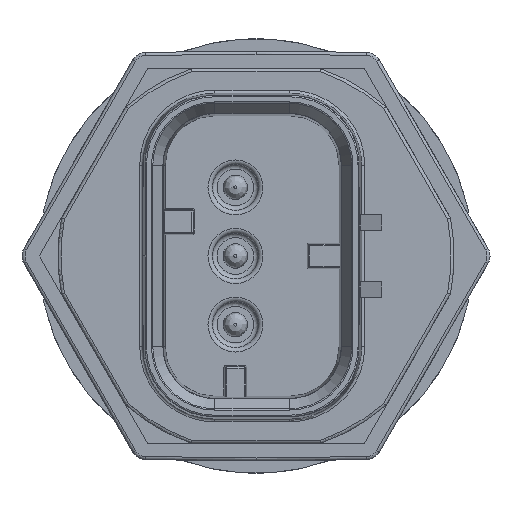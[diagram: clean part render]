
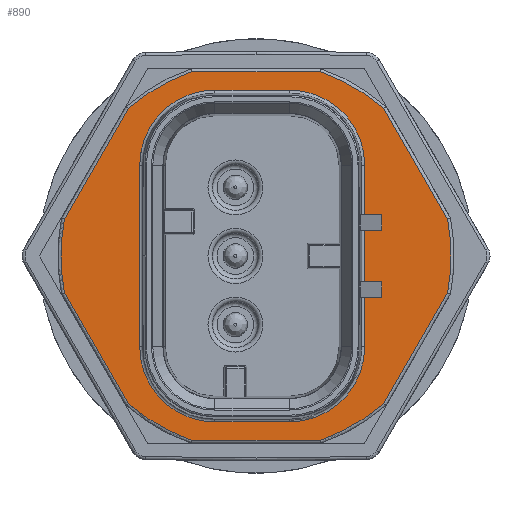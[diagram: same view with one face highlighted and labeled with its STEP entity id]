
A CAD part, left-side view. The second image highlights one B-rep face of the part: STEP entity #890.
In plain terms, the highlighted planar face has unit normal (-1, 0, 0).
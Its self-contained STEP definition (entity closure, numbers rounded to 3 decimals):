
#890 = ADVANCED_FACE( '', ( #1872, #1873 ), #1874, .F. );
#1872 = FACE_OUTER_BOUND( '', #3309, .T. );
#1873 = FACE_BOUND( '', #3310, .T. );
#1874 = PLANE( '', #3311 );
#3309 = EDGE_LOOP( '', ( #6035, #6036, #6037, #6038, #6039, #6040, #6041, #6042, #6043, #6044, #6045, #6046 ) );
#3310 = EDGE_LOOP( '', ( #6047, #6048, #6049, #6050, #6051, #6052, #6053, #6054 ) );
#3311 = AXIS2_PLACEMENT_3D( '', #6055, #6056, #6057 );
#6035 = ORIENTED_EDGE( '', *, *, #7502, .T. );
#6036 = ORIENTED_EDGE( '', *, *, #7270, .T. );
#6037 = ORIENTED_EDGE( '', *, *, #7255, .T. );
#6038 = ORIENTED_EDGE( '', *, *, #6912, .T. );
#6039 = ORIENTED_EDGE( '', *, *, #7450, .T. );
#6040 = ORIENTED_EDGE( '', *, *, #7564, .T. );
#6041 = ORIENTED_EDGE( '', *, *, #7046, .T. );
#6042 = ORIENTED_EDGE( '', *, *, #7589, .T. );
#6043 = ORIENTED_EDGE( '', *, *, #7241, .T. );
#6044 = ORIENTED_EDGE( '', *, *, #7562, .T. );
#6045 = ORIENTED_EDGE( '', *, *, #6934, .T. );
#6046 = ORIENTED_EDGE( '', *, *, #7327, .T. );
#6047 = ORIENTED_EDGE( '', *, *, #7543, .T. );
#6048 = ORIENTED_EDGE( '', *, *, #7372, .T. );
#6049 = ORIENTED_EDGE( '', *, *, #7095, .T. );
#6050 = ORIENTED_EDGE( '', *, *, #7547, .T. );
#6051 = ORIENTED_EDGE( '', *, *, #7516, .T. );
#6052 = ORIENTED_EDGE( '', *, *, #6877, .T. );
#6053 = ORIENTED_EDGE( '', *, *, #7496, .T. );
#6054 = ORIENTED_EDGE( '', *, *, #7356, .T. );
#6055 = CARTESIAN_POINT( '', ( -69.2, 0., 0. ) );
#6056 = DIRECTION( '', ( 1., 0., 0. ) );
#6057 = DIRECTION( '', ( 0., 0., 1. ) );
#6877 = EDGE_CURVE( '', #8209, #8207, #8210, .T. );
#6912 = EDGE_CURVE( '', #8264, #8262, #8265, .F. );
#6934 = EDGE_CURVE( '', #8292, #8297, #8299, .F. );
#7046 = EDGE_CURVE( '', #8473, #8471, #8474, .F. );
#7095 = EDGE_CURVE( '', #8551, #8549, #8552, .F. );
#7241 = EDGE_CURVE( '', #8754, #8756, #8758, .F. );
#7255 = EDGE_CURVE( '', #8778, #8264, #8779, .F. );
#7270 = EDGE_CURVE( '', #8796, #8778, #8799, .T. );
#7327 = EDGE_CURVE( '', #8297, #8875, #8877, .T. );
#7356 = EDGE_CURVE( '', #8911, #8909, #8912, .T. );
#7372 = EDGE_CURVE( '', #8933, #8551, #8934, .T. );
#7450 = EDGE_CURVE( '', #8262, #9025, #9027, .F. );
#7496 = EDGE_CURVE( '', #8207, #8911, #9078, .F. );
#7502 = EDGE_CURVE( '', #8875, #8796, #9085, .F. );
#7516 = EDGE_CURVE( '', #9101, #8209, #9102, .F. );
#7543 = EDGE_CURVE( '', #8909, #8933, #9135, .F. );
#7547 = EDGE_CURVE( '', #8549, #9101, #9140, .T. );
#7562 = EDGE_CURVE( '', #8756, #8292, #9158, .T. );
#7564 = EDGE_CURVE( '', #9025, #8473, #9160, .T. );
#7589 = EDGE_CURVE( '', #8471, #8754, #9187, .T. );
#8207 = VERTEX_POINT( '', #10104 );
#8209 = VERTEX_POINT( '', #10106 );
#8210 = CIRCLE( '', #10107, 4.931 );
#8262 = VERTEX_POINT( '', #10185 );
#8264 = VERTEX_POINT( '', #10192 );
#8265 = LINE( '', #10193, #10194 );
#8292 = VERTEX_POINT( '', #10275 );
#8297 = VERTEX_POINT( '', #10285 );
#8299 = CIRCLE( '', #10292, 12.8 );
#8471 = VERTEX_POINT( '', #10569 );
#8473 = VERTEX_POINT( '', #10576 );
#8474 = CIRCLE( '', #10577, 12.8 );
#8549 = VERTEX_POINT( '', #10691 );
#8551 = VERTEX_POINT( '', #10693 );
#8552 = LINE( '', #10694, #10695 );
#8754 = VERTEX_POINT( '', #10989 );
#8756 = VERTEX_POINT( '', #10996 );
#8758 = CIRCLE( '', #11003, 12.8 );
#8778 = VERTEX_POINT( '', #11028 );
#8779 = CIRCLE( '', #11029, 12.8 );
#8796 = VERTEX_POINT( '', #11053 );
#8799 = LINE( '', #11062, #11063 );
#8875 = VERTEX_POINT( '', #11158 );
#8877 = LINE( '', #11165, #11166 );
#8909 = VERTEX_POINT( '', #11219 );
#8911 = VERTEX_POINT( '', #11221 );
#8912 = CIRCLE( '', #11222, 4.931 );
#8933 = VERTEX_POINT( '', #11249 );
#8934 = CIRCLE( '', #11250, 4.931 );
#9025 = VERTEX_POINT( '', #11383 );
#9027 = CIRCLE( '', #11390, 12.8 );
#9078 = LINE( '', #11461, #11462 );
#9085 = CIRCLE( '', #11471, 12.8 );
#9101 = VERTEX_POINT( '', #11493 );
#9102 = LINE( '', #11494, #11495 );
#9135 = LINE( '', #11539, #11540 );
#9140 = CIRCLE( '', #11545, 4.931 );
#9158 = LINE( '', #11572, #11573 );
#9160 = LINE( '', #11575, #11576 );
#9187 = LINE( '', #11606, #11607 );
#10104 = CARTESIAN_POINT( '', ( -69.2, -7.131, 5.95 ) );
#10106 = CARTESIAN_POINT( '', ( -69.2, -2.2, 10.881 ) );
#10107 = AXIS2_PLACEMENT_3D( '', #12186, #12187, #12188 );
#10185 = CARTESIAN_POINT( '', ( -69.2, 4.204, 12.09 ) );
#10192 = CARTESIAN_POINT( '', ( -69.2, -4.204, 12.09 ) );
#10193 = CARTESIAN_POINT( '', ( -69.2, 0., 12.09 ) );
#10194 = VECTOR( '', #12230, 1000. );
#10275 = CARTESIAN_POINT( '', ( -69.2, -4.204, -12.09 ) );
#10285 = CARTESIAN_POINT( '', ( -69.2, -8.368, -9.686 ) );
#10292 = AXIS2_PLACEMENT_3D( '', #12257, #12258, #12259 );
#10569 = CARTESIAN_POINT( '', ( -69.2, 12.572, -2.404 ) );
#10576 = CARTESIAN_POINT( '', ( -69.2, 12.572, 2.404 ) );
#10577 = AXIS2_PLACEMENT_3D( '', #12422, #12423, #12424 );
#10691 = CARTESIAN_POINT( '', ( -69.2, 7.631, 5.95 ) );
#10693 = CARTESIAN_POINT( '', ( -69.2, 7.631, -5.95 ) );
#10694 = CARTESIAN_POINT( '', ( -69.2, 7.631, 0. ) );
#10695 = VECTOR( '', #12485, 1000. );
#10989 = CARTESIAN_POINT( '', ( -69.2, 8.368, -9.686 ) );
#10996 = CARTESIAN_POINT( '', ( -69.2, 4.204, -12.09 ) );
#11003 = AXIS2_PLACEMENT_3D( '', #12668, #12669, #12670 );
#11028 = CARTESIAN_POINT( '', ( -69.2, -8.368, 9.686 ) );
#11029 = AXIS2_PLACEMENT_3D( '', #12688, #12689, #12690 );
#11053 = CARTESIAN_POINT( '', ( -69.2, -12.572, 2.404 ) );
#11062 = CARTESIAN_POINT( '', ( -69.2, -8.352, 9.715 ) );
#11063 = VECTOR( '', #12709, 1000. );
#11158 = CARTESIAN_POINT( '', ( -69.2, -12.572, -2.404 ) );
#11165 = CARTESIAN_POINT( '', ( -69.2, -12.589, -2.375 ) );
#11166 = VECTOR( '', #12789, 1000. );
#11219 = CARTESIAN_POINT( '', ( -69.2, -2.2, -10.881 ) );
#11221 = CARTESIAN_POINT( '', ( -69.2, -7.131, -5.95 ) );
#11222 = AXIS2_PLACEMENT_3D( '', #12822, #12823, #12824 );
#11249 = CARTESIAN_POINT( '', ( -69.2, 2.7, -10.881 ) );
#11250 = AXIS2_PLACEMENT_3D( '', #12846, #12847, #12848 );
#11383 = CARTESIAN_POINT( '', ( -69.2, 8.368, 9.686 ) );
#11390 = AXIS2_PLACEMENT_3D( '', #12927, #12928, #12929 );
#11461 = CARTESIAN_POINT( '', ( -69.2, -7.131, 0. ) );
#11462 = VECTOR( '', #12974, 1000. );
#11471 = AXIS2_PLACEMENT_3D( '', #12977, #12978, #12979 );
#11493 = CARTESIAN_POINT( '', ( -69.2, 2.7, 10.881 ) );
#11494 = CARTESIAN_POINT( '', ( -69.2, 0., 10.881 ) );
#11495 = VECTOR( '', #12992, 1000. );
#11539 = CARTESIAN_POINT( '', ( -69.2, 0., -10.881 ) );
#11540 = VECTOR( '', #13019, 1000. );
#11545 = AXIS2_PLACEMENT_3D( '', #13023, #13024, #13025 );
#11572 = CARTESIAN_POINT( '', ( -69.2, -4.237, -12.09 ) );
#11573 = VECTOR( '', #13038, 1000. );
#11575 = CARTESIAN_POINT( '', ( -69.2, 12.589, 2.375 ) );
#11576 = VECTOR( '', #13039, 1000. );
#11606 = CARTESIAN_POINT( '', ( -69.2, 8.352, -9.715 ) );
#11607 = VECTOR( '', #13064, 1000. );
#12186 = CARTESIAN_POINT( '', ( -69.2, -2.2, 5.95 ) );
#12187 = DIRECTION( '', ( 1., 0., 0. ) );
#12188 = DIRECTION( '', ( 0., 0., 1. ) );
#12230 = DIRECTION( '', ( 0., -1., 0. ) );
#12257 = CARTESIAN_POINT( '', ( -69.2, 0., 0. ) );
#12258 = DIRECTION( '', ( 1., 0., 0. ) );
#12259 = DIRECTION( '', ( 0., 0., 1. ) );
#12422 = CARTESIAN_POINT( '', ( -69.2, 0., 0. ) );
#12423 = DIRECTION( '', ( 1., 0., 0. ) );
#12424 = DIRECTION( '', ( 0., 0., 1. ) );
#12485 = DIRECTION( '', ( 0., 0., -1. ) );
#12668 = CARTESIAN_POINT( '', ( -69.2, 0., 0. ) );
#12669 = DIRECTION( '', ( 1., 0., 0. ) );
#12670 = DIRECTION( '', ( 0., 0., 1. ) );
#12688 = CARTESIAN_POINT( '', ( -69.2, 0., 0. ) );
#12689 = DIRECTION( '', ( 1., 0., 0. ) );
#12690 = DIRECTION( '', ( 0., 0., 1. ) );
#12709 = DIRECTION( '', ( 0., 0.5, 0.866 ) );
#12789 = DIRECTION( '', ( 0., -0.5, 0.866 ) );
#12822 = CARTESIAN_POINT( '', ( -69.2, -2.2, -5.95 ) );
#12823 = DIRECTION( '', ( 1., 0., 0. ) );
#12824 = DIRECTION( '', ( 0., 0., 1. ) );
#12846 = CARTESIAN_POINT( '', ( -69.2, 2.7, -5.95 ) );
#12847 = DIRECTION( '', ( 1., 0., 0. ) );
#12848 = DIRECTION( '', ( 0., 0., 1. ) );
#12927 = CARTESIAN_POINT( '', ( -69.2, 0., 0. ) );
#12928 = DIRECTION( '', ( 1., 0., 0. ) );
#12929 = DIRECTION( '', ( 0., 0., 1. ) );
#12974 = DIRECTION( '', ( 0., 0., 1. ) );
#12977 = CARTESIAN_POINT( '', ( -69.2, 0., 0. ) );
#12978 = DIRECTION( '', ( 1., 0., 0. ) );
#12979 = DIRECTION( '', ( 0., 0., 1. ) );
#12992 = DIRECTION( '', ( 0., 1., 0. ) );
#13019 = DIRECTION( '', ( 0., -1., 0. ) );
#13023 = CARTESIAN_POINT( '', ( -69.2, 2.7, 5.95 ) );
#13024 = DIRECTION( '', ( 1., 0., 0. ) );
#13025 = DIRECTION( '', ( 0., 0., 1. ) );
#13038 = DIRECTION( '', ( 0., -1., 0. ) );
#13039 = DIRECTION( '', ( 0., 0.5, -0.866 ) );
#13064 = DIRECTION( '', ( 0., -0.5, -0.866 ) );
